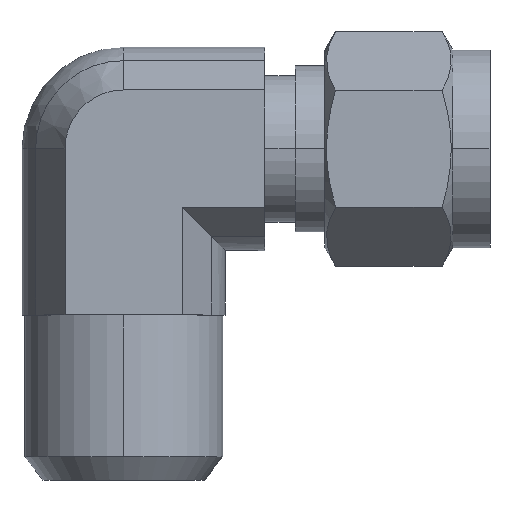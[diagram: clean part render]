
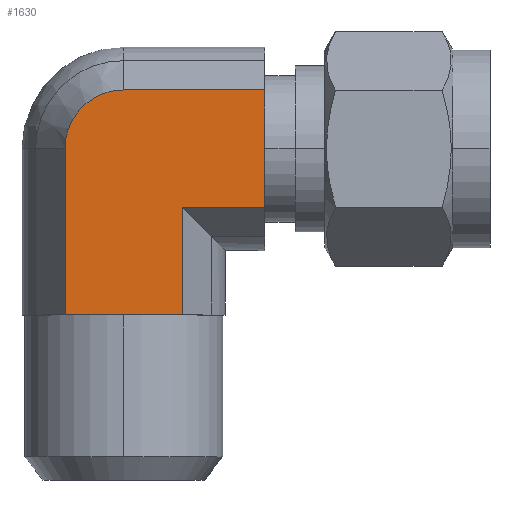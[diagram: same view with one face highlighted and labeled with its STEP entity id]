
A CAD part, top view. The second image highlights one B-rep face of the part: STEP entity #1630.
In plain terms, the highlighted planar face has unit normal (0, 0, 1).
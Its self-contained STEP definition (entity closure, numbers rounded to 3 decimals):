
#75 = EDGE_CURVE ( 'NONE', #1615, #1625, #377, .T. ) ;
#115 = ORIENTED_EDGE ( 'NONE', *, *, #1779, .F. ) ;
#174 = ORIENTED_EDGE ( 'NONE', *, *, #75, .F. ) ;
#198 = ORIENTED_EDGE ( 'NONE', *, *, #1627, .T. ) ;
#259 = EDGE_CURVE ( 'NONE', #1658, #1634, #489, .T. ) ;
#373 = DIRECTION ( 'NONE',  ( 0., 1., 0. ) ) ;
#374 = DIRECTION ( 'NONE',  ( 0., 0., -1. ) ) ;
#375 = CARTESIAN_POINT ( 'NONE',  ( 0., 0., 8.75 ) ) ;
#376 = AXIS2_PLACEMENT_3D ( 'NONE', #375, #374, #373 ) ;
#377 = CIRCLE ( 'NONE', #376, 5.052 ) ;
#483 = DIRECTION ( 'NONE',  ( -1., 0., 0. ) ) ;
#484 = VECTOR ( 'NONE', #483, 1000. ) ;
#485 = CARTESIAN_POINT ( 'NONE',  ( 12.14, -5.052, 8.75 ) ) ;
#489 = LINE ( 'NONE', #485, #484 ) ;
#893 = DIRECTION ( 'NONE',  ( 0., 1., 0. ) ) ;
#894 = VECTOR ( 'NONE', #893, 1000. ) ;
#895 = CARTESIAN_POINT ( 'NONE',  ( -5.052, -14.3, 8.75 ) ) ;
#896 = LINE ( 'NONE', #895, #894 ) ;
#897 = CARTESIAN_POINT ( 'NONE',  ( -5.052, 0., 8.75 ) ) ;
#975 = DIRECTION ( 'NONE',  ( 0., 1., 0. ) ) ;
#976 = DIRECTION ( 'NONE',  ( 0., 0., -1. ) ) ;
#1047 = CARTESIAN_POINT ( 'NONE',  ( 12.14, 5.052, 8.75 ) ) ;
#1048 = LINE ( 'NONE', #1047, #1162 ) ;
#1093 = DIRECTION ( 'NONE',  ( 1., 0., 0. ) ) ;
#1094 = VECTOR ( 'NONE', #1093, 1000. ) ;
#1095 = CARTESIAN_POINT ( 'NONE',  ( -5.052, -14.3, 8.75 ) ) ;
#1096 = LINE ( 'NONE', #1095, #1094 ) ;
#1097 = CARTESIAN_POINT ( 'NONE',  ( 5.052, -14.3, 8.75 ) ) ;
#1104 = CARTESIAN_POINT ( 'NONE',  ( 5.052, -5.052, 8.75 ) ) ;
#1105 = DIRECTION ( 'NONE',  ( 0., 1., 0. ) ) ;
#1106 = VECTOR ( 'NONE', #1105, 1000. ) ;
#1107 = CARTESIAN_POINT ( 'NONE',  ( 5.052, -14.3, 8.75 ) ) ;
#1108 = LINE ( 'NONE', #1107, #1106 ) ;
#1157 = CARTESIAN_POINT ( 'NONE',  ( 12.14, 5.052, 8.75 ) ) ;
#1158 = AXIS2_PLACEMENT_3D ( 'NONE', #1157, #976, #975 ) ;
#1159 = PLANE ( 'NONE',  #1158 ) ;
#1160 = FACE_OUTER_BOUND ( 'NONE', #1631, .T. ) ;
#1161 = DIRECTION ( 'NONE',  ( -1., 0., 0. ) ) ;
#1162 = VECTOR ( 'NONE', #1161, 1000. ) ;
#1163 = CARTESIAN_POINT ( 'NONE',  ( 0., 5.052, 8.75 ) ) ;
#1202 = CARTESIAN_POINT ( 'NONE',  ( 12.14, -5.052, 8.75 ) ) ;
#1218 = CARTESIAN_POINT ( 'NONE',  ( -5.052, -14.3, 8.75 ) ) ;
#1394 = DIRECTION ( 'NONE',  ( 0., -1., 0. ) ) ;
#1395 = VECTOR ( 'NONE', #1394, 1000. ) ;
#1396 = CARTESIAN_POINT ( 'NONE',  ( 12.14, 5.052, 8.75 ) ) ;
#1397 = LINE ( 'NONE', #1396, #1395 ) ;
#1398 = CARTESIAN_POINT ( 'NONE',  ( 12.14, 5.052, 8.75 ) ) ;
#1615 = VERTEX_POINT ( 'NONE', #897 ) ;
#1616 = ORIENTED_EDGE ( 'NONE', *, *, #1617, .F. ) ;
#1617 = EDGE_CURVE ( 'NONE', #1646, #1615, #896, .T. ) ;
#1618 = ORIENTED_EDGE ( 'NONE', *, *, #1645, .T. ) ;
#1625 = VERTEX_POINT ( 'NONE', #1163 ) ;
#1627 = EDGE_CURVE ( 'NONE', #1777, #1625, #1048, .T. ) ;
#1630 = ADVANCED_FACE ( 'NONE', ( #1160 ), #1159, .F. ) ;
#1631 = EDGE_LOOP ( 'NONE', ( #1632, #1635, #115, #198, #174, #1616, #1618 ) ) ;
#1632 = ORIENTED_EDGE ( 'NONE', *, *, #1633, .T. ) ;
#1633 = EDGE_CURVE ( 'NONE', #1643, #1634, #1108, .T. ) ;
#1634 = VERTEX_POINT ( 'NONE', #1104 ) ;
#1635 = ORIENTED_EDGE ( 'NONE', *, *, #259, .F. ) ;
#1643 = VERTEX_POINT ( 'NONE', #1097 ) ;
#1645 = EDGE_CURVE ( 'NONE', #1646, #1643, #1096, .T. ) ;
#1646 = VERTEX_POINT ( 'NONE', #1218 ) ;
#1658 = VERTEX_POINT ( 'NONE', #1202 ) ;
#1777 = VERTEX_POINT ( 'NONE', #1398 ) ;
#1779 = EDGE_CURVE ( 'NONE', #1777, #1658, #1397, .T. ) ;
